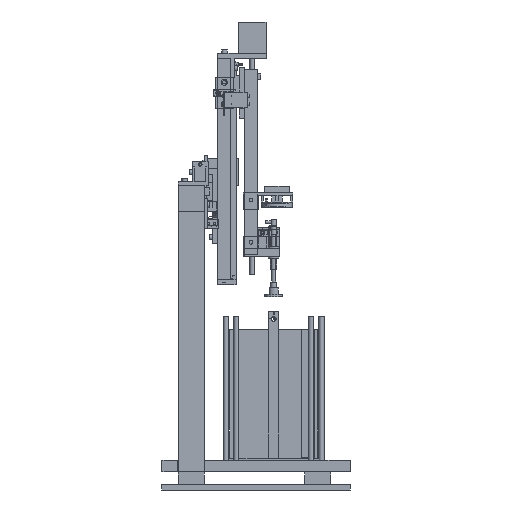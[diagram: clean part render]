
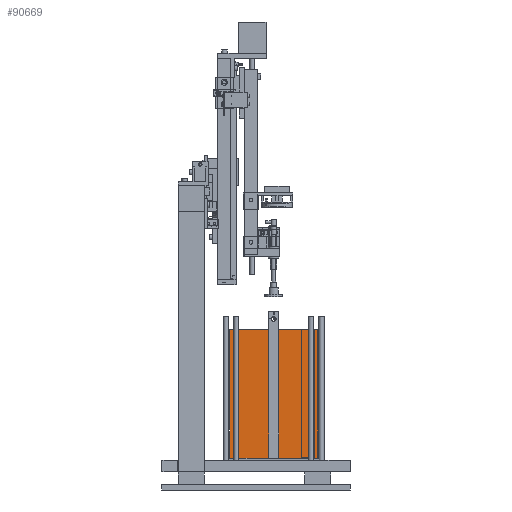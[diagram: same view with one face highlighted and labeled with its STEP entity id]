
A CAD part, left-side view. The second image highlights one B-rep face of the part: STEP entity #90669.
In plain terms, the highlighted planar face has unit normal (-1, 0, 0).
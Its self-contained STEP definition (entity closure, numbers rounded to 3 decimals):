
#90669 = ADVANCED_FACE('',(#90670),#90684,.F.);
#90670 = FACE_BOUND('',#90671,.F.);
#90671 = EDGE_LOOP('',(#90672,#90707,#90735,#90763));
#90672 = ORIENTED_EDGE('',*,*,#90673,.F.);
#90673 = EDGE_CURVE('',#90674,#90676,#90678,.T.);
#90674 = VERTEX_POINT('',#90675);
#90675 = CARTESIAN_POINT('',(93.85,-67.75,0.));
#90676 = VERTEX_POINT('',#90677);
#90677 = CARTESIAN_POINT('',(93.85,-67.75,198.));
#90678 = SURFACE_CURVE('',#90679,(#90683,#90695),.PCURVE_S1.);
#90679 = LINE('',#90680,#90681);
#90680 = CARTESIAN_POINT('',(93.85,-67.75,0.));
#90681 = VECTOR('',#90682,1.);
#90682 = DIRECTION('',(0.,0.,1.));
#90683 = PCURVE('',#90684,#90689);
#90684 = PLANE('',#90685);
#90685 = AXIS2_PLACEMENT_3D('',#90686,#90687,#90688);
#90686 = CARTESIAN_POINT('',(93.85,-67.75,0.));
#90687 = DIRECTION('',(1.,0.,0.));
#90688 = DIRECTION('',(0.,0.,1.));
#90689 = DEFINITIONAL_REPRESENTATION('',(#90690),#90694);
#90690 = LINE('',#90691,#90692);
#90691 = CARTESIAN_POINT('',(0.,0.));
#90692 = VECTOR('',#90693,1.);
#90693 = DIRECTION('',(1.,0.));
#90694 = ( GEOMETRIC_REPRESENTATION_CONTEXT(2) 
PARAMETRIC_REPRESENTATION_CONTEXT() REPRESENTATION_CONTEXT('2D SPACE',''
  ) );
#90695 = PCURVE('',#90696,#90701);
#90696 = PLANE('',#90697);
#90697 = AXIS2_PLACEMENT_3D('',#90698,#90699,#90700);
#90698 = CARTESIAN_POINT('',(93.85,-67.75,0.));
#90699 = DIRECTION('',(0.,1.,0.));
#90700 = DIRECTION('',(0.,0.,1.));
#90701 = DEFINITIONAL_REPRESENTATION('',(#90702),#90706);
#90702 = LINE('',#90703,#90704);
#90703 = CARTESIAN_POINT('',(0.,0.));
#90704 = VECTOR('',#90705,1.);
#90705 = DIRECTION('',(1.,0.));
#90706 = ( GEOMETRIC_REPRESENTATION_CONTEXT(2) 
PARAMETRIC_REPRESENTATION_CONTEXT() REPRESENTATION_CONTEXT('2D SPACE',''
  ) );
#90707 = ORIENTED_EDGE('',*,*,#90708,.T.);
#90708 = EDGE_CURVE('',#90674,#90709,#90711,.T.);
#90709 = VERTEX_POINT('',#90710);
#90710 = CARTESIAN_POINT('',(93.85,67.75,0.));
#90711 = SURFACE_CURVE('',#90712,(#90716,#90723),.PCURVE_S1.);
#90712 = LINE('',#90713,#90714);
#90713 = CARTESIAN_POINT('',(93.85,-67.75,0.));
#90714 = VECTOR('',#90715,1.);
#90715 = DIRECTION('',(0.,1.,0.));
#90716 = PCURVE('',#90684,#90717);
#90717 = DEFINITIONAL_REPRESENTATION('',(#90718),#90722);
#90718 = LINE('',#90719,#90720);
#90719 = CARTESIAN_POINT('',(0.,0.));
#90720 = VECTOR('',#90721,1.);
#90721 = DIRECTION('',(0.,-1.));
#90722 = ( GEOMETRIC_REPRESENTATION_CONTEXT(2) 
PARAMETRIC_REPRESENTATION_CONTEXT() REPRESENTATION_CONTEXT('2D SPACE',''
  ) );
#90723 = PCURVE('',#90724,#90729);
#90724 = PLANE('',#90725);
#90725 = AXIS2_PLACEMENT_3D('',#90726,#90727,#90728);
#90726 = CARTESIAN_POINT('',(93.85,-67.75,0.));
#90727 = DIRECTION('',(0.,0.,1.));
#90728 = DIRECTION('',(1.,0.,0.));
#90729 = DEFINITIONAL_REPRESENTATION('',(#90730),#90734);
#90730 = LINE('',#90731,#90732);
#90731 = CARTESIAN_POINT('',(0.,0.));
#90732 = VECTOR('',#90733,1.);
#90733 = DIRECTION('',(0.,1.));
#90734 = ( GEOMETRIC_REPRESENTATION_CONTEXT(2) 
PARAMETRIC_REPRESENTATION_CONTEXT() REPRESENTATION_CONTEXT('2D SPACE',''
  ) );
#90735 = ORIENTED_EDGE('',*,*,#90736,.T.);
#90736 = EDGE_CURVE('',#90709,#90737,#90739,.T.);
#90737 = VERTEX_POINT('',#90738);
#90738 = CARTESIAN_POINT('',(93.85,67.75,198.));
#90739 = SURFACE_CURVE('',#90740,(#90744,#90751),.PCURVE_S1.);
#90740 = LINE('',#90741,#90742);
#90741 = CARTESIAN_POINT('',(93.85,67.75,0.));
#90742 = VECTOR('',#90743,1.);
#90743 = DIRECTION('',(0.,0.,1.));
#90744 = PCURVE('',#90684,#90745);
#90745 = DEFINITIONAL_REPRESENTATION('',(#90746),#90750);
#90746 = LINE('',#90747,#90748);
#90747 = CARTESIAN_POINT('',(0.,-135.5));
#90748 = VECTOR('',#90749,1.);
#90749 = DIRECTION('',(1.,0.));
#90750 = ( GEOMETRIC_REPRESENTATION_CONTEXT(2) 
PARAMETRIC_REPRESENTATION_CONTEXT() REPRESENTATION_CONTEXT('2D SPACE',''
  ) );
#90751 = PCURVE('',#90752,#90757);
#90752 = PLANE('',#90753);
#90753 = AXIS2_PLACEMENT_3D('',#90754,#90755,#90756);
#90754 = CARTESIAN_POINT('',(93.85,67.75,0.));
#90755 = DIRECTION('',(0.,1.,0.));
#90756 = DIRECTION('',(0.,0.,1.));
#90757 = DEFINITIONAL_REPRESENTATION('',(#90758),#90762);
#90758 = LINE('',#90759,#90760);
#90759 = CARTESIAN_POINT('',(0.,0.));
#90760 = VECTOR('',#90761,1.);
#90761 = DIRECTION('',(1.,0.));
#90762 = ( GEOMETRIC_REPRESENTATION_CONTEXT(2) 
PARAMETRIC_REPRESENTATION_CONTEXT() REPRESENTATION_CONTEXT('2D SPACE',''
  ) );
#90763 = ORIENTED_EDGE('',*,*,#90764,.F.);
#90764 = EDGE_CURVE('',#90676,#90737,#90765,.T.);
#90765 = SURFACE_CURVE('',#90766,(#90770,#90777),.PCURVE_S1.);
#90766 = LINE('',#90767,#90768);
#90767 = CARTESIAN_POINT('',(93.85,-67.75,198.));
#90768 = VECTOR('',#90769,1.);
#90769 = DIRECTION('',(0.,1.,0.));
#90770 = PCURVE('',#90684,#90771);
#90771 = DEFINITIONAL_REPRESENTATION('',(#90772),#90776);
#90772 = LINE('',#90773,#90774);
#90773 = CARTESIAN_POINT('',(198.,0.));
#90774 = VECTOR('',#90775,1.);
#90775 = DIRECTION('',(0.,-1.));
#90776 = ( GEOMETRIC_REPRESENTATION_CONTEXT(2) 
PARAMETRIC_REPRESENTATION_CONTEXT() REPRESENTATION_CONTEXT('2D SPACE',''
  ) );
#90777 = PCURVE('',#90778,#90783);
#90778 = PLANE('',#90779);
#90779 = AXIS2_PLACEMENT_3D('',#90780,#90781,#90782);
#90780 = CARTESIAN_POINT('',(93.85,-67.75,198.));
#90781 = DIRECTION('',(0.,0.,1.));
#90782 = DIRECTION('',(1.,0.,0.));
#90783 = DEFINITIONAL_REPRESENTATION('',(#90784),#90788);
#90784 = LINE('',#90785,#90786);
#90785 = CARTESIAN_POINT('',(0.,0.));
#90786 = VECTOR('',#90787,1.);
#90787 = DIRECTION('',(0.,1.));
#90788 = ( GEOMETRIC_REPRESENTATION_CONTEXT(2) 
PARAMETRIC_REPRESENTATION_CONTEXT() REPRESENTATION_CONTEXT('2D SPACE',''
  ) );
